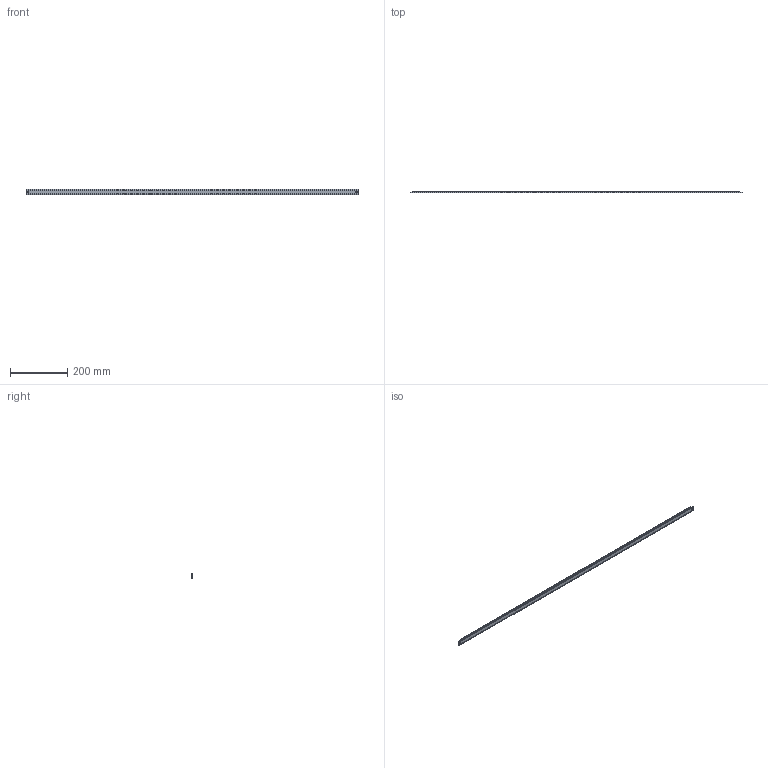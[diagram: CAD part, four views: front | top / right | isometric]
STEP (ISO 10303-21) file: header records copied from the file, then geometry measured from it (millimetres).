
FILE_DESCRIPTION (( 'STEP AP214' ), '1' );
FILE_NAME ('HLMScale.ScaleLength1160.STEP', '2023-02-07T05:55:14', ( '' ), ( '' ), 'SwSTEP 2.0', 'SolidWorks 2020', '' );
FILE_SCHEMA (( 'AUTOMOTIVE_DESIGN' ));
Length unit declared in the file: millimetre
Products named in the file (1): HLMScale.ScaleLength1160
Bounding box: 1160 x 6.08 x 18 mm (x, y, z)
Volume: 116679.4 mm3; surface area: 64072.4 mm2
Topology: 1 solids, 1 shells, 56 faces, 149 edges, 98 vertices
Faces by surface type: plane 31, cylinder 25
Entity records: 1857 total; most frequent: CARTESIAN_POINT 412, ORIENTED_EDGE 298, DIRECTION 285, EDGE_CURVE 149, VECTOR 103, LINE 103, VERTEX_POINT 98, AXIS2_PLACEMENT_3D 91
